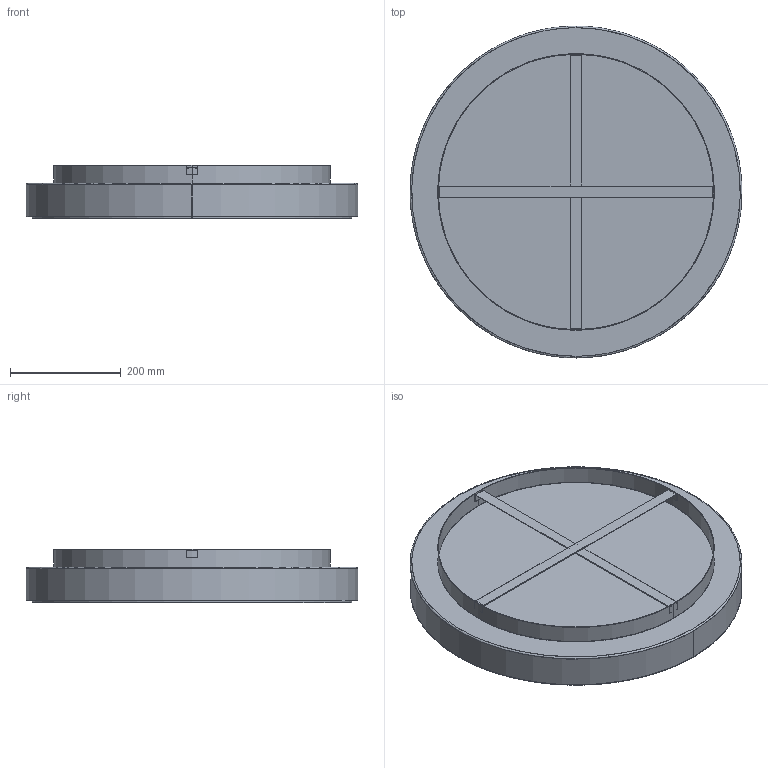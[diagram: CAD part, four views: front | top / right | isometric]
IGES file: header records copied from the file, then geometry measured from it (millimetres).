
Start section: SolidWorks IGES file using analytic representation for surfaces
Global section: file name: C:\Users\anna.bielnik\Desktop\LED plafon\LED plafon L\LED L plafon.IGS; native system: SolidWorks 2023; preprocessor: SolidWorks 2023; author: anna.bielnik; date: 240223.074502; units: millimetre
Bounding box: 600 x 600 x 96 mm (x, y, z)
Surface area: 1349602.3 mm2 (no closed solid volume)
Topology: 0 solids, 0 shells, 56 faces, 1232 edges, 1232 vertices
Faces by surface type: bspline 34, revolution 22
